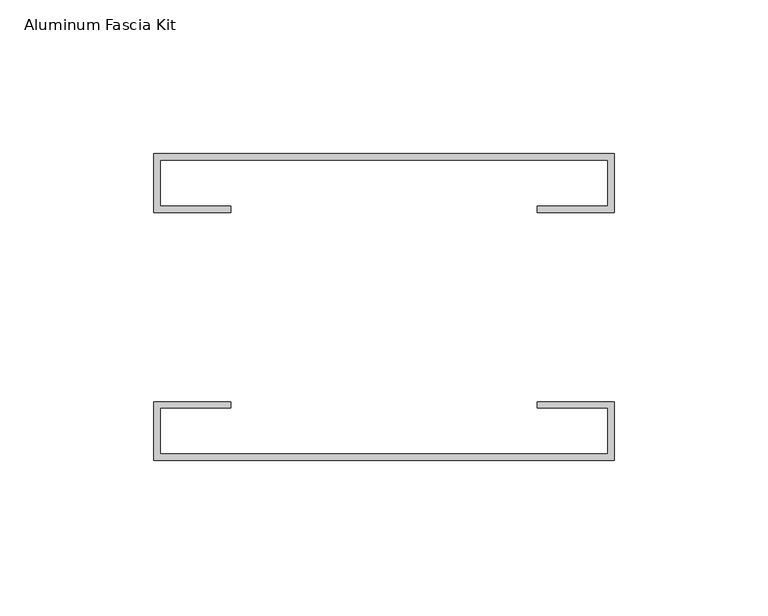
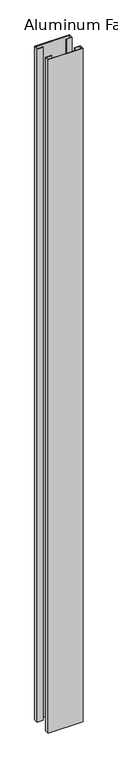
"""IFC4 building model written with IfcOpenShell, lengths in millimetres: proxy geometry, Connection-Teknion-FHFK-Aluminum_Fascia_Kit-R2022 : Aluminum Fascia Kit."""

from ifc_helpers import new_model, si_unit, origin, origin_with_axes, place, context, project, spatial, polyline, outline, extrude, source, transform, mapped, element, save


def aluminum_fascia_kit_fc3571d5(model_context):
    return source(origin(), model_context, "Body", "SweptSolid", [
        extrude(outline(polyline([(70.0272843, 47.8064467), (-75.4223668, 47.8064467), (-75.4223668, 32.8299556), (-52.4921256, 32.8299556), (-52.4921256, 30.7992449), (-77.4530774, 30.7992449), (-77.4530774, 49.8371574), (72.0579949, 49.8371574), (72.0579949, 30.7992449), (47.0970431, 30.7992449), (47.0970431, 32.8299556), (70.0272843, 32.8299556), (70.0272843, 47.8064467)])), origin_with_axes(), (0.0, 0.0, 1.0), 3048.0),
        extrude(outline(polyline([(70.0272843, -47.8064467), (70.0272843, -32.8299556), (47.0970431, -32.8299556), (47.0970431, -30.7992449), (72.0579949, -30.7992449), (72.0579949, -49.8371574), (-77.4530774, -49.8371574), (-77.4530774, -30.7992449), (-52.4921256, -30.7992449), (-52.4921256, -32.8299556), (-75.4223668, -32.8299556), (-75.4223668, -47.8064467), (70.0272843, -47.8064467)])), origin_with_axes(), (0.0, 0.0, 1.0), 3048.0),
    ])


if __name__ == "__main__":
    model = new_model("IFC4")
    model_context = context("Model", 3, world=origin())
    ifc_project = project(units=[si_unit("LENGTHUNIT", "METRE", prefix="MILLI")], contexts=[model_context])
    site = spatial("IfcSite", under=ifc_project)
    building = spatial("IfcBuilding", under=site)
    placement = place(None, origin())
    aluminum_fascia_kit_shape = aluminum_fascia_kit_fc3571d5(model_context)
    element("IfcBuildingElementProxy", 1, Name="Connection-Teknion-FHFK-Aluminum_Fascia_Kit-R2022 : Aluminum Fascia Kit", ObjectType="Connection-Teknion-FHFK-Aluminum_Fascia_Kit-R2022 : Aluminum Fascia Kit", at=placement, inside=building, context=model_context, shape_type="MappedRepresentation", body=[
        mapped(aluminum_fascia_kit_shape, transform((0.0, 0.0, 0.0), x_axis=(1.0, 0.0, 0.0), y_axis=(0.0, 1.0, 0.0), z_axis=(0.0, 0.0, 1.0))),
    ])
    save(model, "model.ifc")
